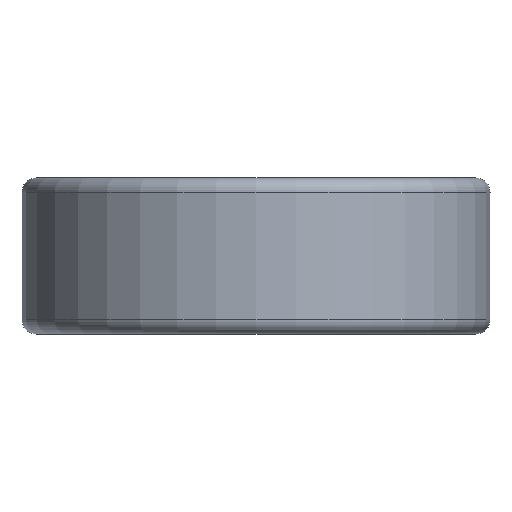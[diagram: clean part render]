
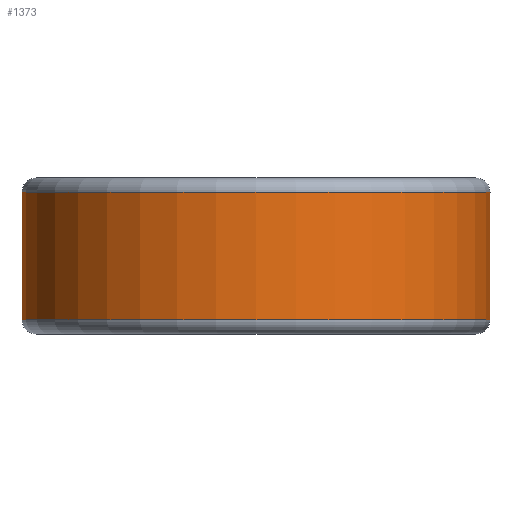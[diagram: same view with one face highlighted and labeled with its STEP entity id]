
A CAD part, left-side view. The second image highlights one B-rep face of the part: STEP entity #1373.
In plain terms, the highlighted cylindrical face has radius 22.5 mm (diameter 45 mm), a partial arc.
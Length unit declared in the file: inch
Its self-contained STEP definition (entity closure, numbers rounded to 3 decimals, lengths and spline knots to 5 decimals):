
#133=CARTESIAN_POINT('',(0.88527,-0.0313,
0.05314));
#143=DIRECTION('',(0.,0.,1.));
#144=VECTOR('',#143,0.48426);
#145=CARTESIAN_POINT('',(0.88527,-0.0313,
0.05314));
#146=LINE('',#145,#144);
#155=CARTESIAN_POINT('',(0.88527,-0.0313,
0.53741));
#217=CARTESIAN_POINT('',(0.88527,0.0313,
0.53741));
#227=DIRECTION('',(0.,0.,-1.));
#228=VECTOR('',#227,0.48426);
#229=CARTESIAN_POINT('',(0.88527,0.0313,
0.53741));
#230=LINE('',#229,#228);
#239=CARTESIAN_POINT('',(0.88527,0.0313,
0.05314));
#365=CARTESIAN_POINT('',(0.,0.,0.5374));
#366=DIRECTION('',(0.,0.,1.));
#367=DIRECTION('',(0.999,0.035,0.));
#368=AXIS2_PLACEMENT_3D('',#365,#366,#367);
#370=DIRECTION('',(0.,0.,1.));
#371=VECTOR('',#370,0.02248);
#372=CARTESIAN_POINT('',(0.84765,0.25725,
0.15626));
#373=LINE('',#372,#371);
#374=CARTESIAN_POINT('',(0.689,0.55675,0.08434));
#375=CARTESIAN_POINT('',(0.70313,0.53926,
0.08434));
#376=CARTESIAN_POINT('',(0.73198,0.50087,
0.08717));
#377=CARTESIAN_POINT('',(0.77515,0.4316,
0.10092));
#378=CARTESIAN_POINT('',(0.81504,0.35118,
0.12406));
#379=CARTESIAN_POINT('',(0.83773,0.28993,
0.14494));
#380=CARTESIAN_POINT('',(0.84765,0.25725,
0.15626));
#382=CARTESIAN_POINT('',(0.689,0.55675,0.50621));
#383=CARTESIAN_POINT('',(0.67449,0.5747,
0.50621));
#384=CARTESIAN_POINT('',(0.64589,0.60724,
0.50322));
#385=CARTESIAN_POINT('',(0.60589,0.64691,
0.4906));
#386=CARTESIAN_POINT('',(0.57011,0.67844,
0.47104));
#387=CARTESIAN_POINT('',(0.53991,0.70255,
0.44613));
#388=CARTESIAN_POINT('',(0.51544,0.72059,
0.41709));
#389=CARTESIAN_POINT('',(0.49688,0.73342,
0.3849));
#390=CARTESIAN_POINT('',(0.48435,0.74171,
0.35058));
#391=CARTESIAN_POINT('',(0.47787,0.74588,
0.3145));
#392=CARTESIAN_POINT('',(0.47773,0.74597,
0.27768));
#393=CARTESIAN_POINT('',(0.48393,0.74198,
0.2416));
#394=CARTESIAN_POINT('',(0.49614,0.73392,
0.20726));
#395=CARTESIAN_POINT('',(0.51442,0.72131,
0.17493));
#396=CARTESIAN_POINT('',(0.53875,0.70344,
0.14552));
#397=CARTESIAN_POINT('',(0.56904,0.67934,
0.12025));
#398=CARTESIAN_POINT('',(0.60506,0.64769,
0.10025));
#399=CARTESIAN_POINT('',(0.64545,0.60772,
0.08741));
#400=CARTESIAN_POINT('',(0.67434,0.57489,
0.08434));
#401=CARTESIAN_POINT('',(0.689,0.55675,0.08434));
#403=CARTESIAN_POINT('',(0.84765,0.25725,
0.43429));
#404=CARTESIAN_POINT('',(0.83773,0.28993,
0.44561));
#405=CARTESIAN_POINT('',(0.81505,0.35115,
0.46652));
#406=CARTESIAN_POINT('',(0.77516,0.43159,
0.48959));
#407=CARTESIAN_POINT('',(0.73199,0.50085,
0.5034));
#408=CARTESIAN_POINT('',(0.70314,0.53926,
0.50621));
#409=CARTESIAN_POINT('',(0.689,0.55675,0.50621));
#411=DIRECTION('',(0.,0.,1.));
#412=VECTOR('',#411,0.02248);
#413=CARTESIAN_POINT('',(0.84765,0.25725,
0.41181));
#414=LINE('',#413,#412);
#415=DIRECTION('',(0.,0.,-1.));
#416=VECTOR('',#415,0.23307);
#417=CARTESIAN_POINT('',(0.84765,0.25725,
0.41181));
#418=LINE('',#417,#416);
#419=CARTESIAN_POINT('',(0.,0.,0.05315));
#420=DIRECTION('',(0.,0.,-1.));
#421=DIRECTION('',(0.999,-0.035,0.));
#422=AXIS2_PLACEMENT_3D('',#419,#420,#421);
#735=CARTESIAN_POINT('',(0.689,-0.55675,0.19371));
#736=CARTESIAN_POINT('',(0.68058,-0.56716,
0.19371));
#737=CARTESIAN_POINT('',(0.66413,-0.58655,0.1958));
#738=CARTESIAN_POINT('',(0.64156,-0.61106,
0.20443));
#739=CARTESIAN_POINT('',(0.62219,-0.63068,
0.21764));
#740=CARTESIAN_POINT('',(0.60694,-0.6453,
0.23412));
#741=CARTESIAN_POINT('',(0.59621,-0.65519,
0.25234));
#742=CARTESIAN_POINT('',(0.58969,-0.66103,
0.27118));
#743=CARTESIAN_POINT('',(0.58693,-0.66348,
0.29052));
#744=CARTESIAN_POINT('',(0.58788,-0.66264,
0.30983));
#745=CARTESIAN_POINT('',(0.59239,-0.65862,
0.32852));
#746=CARTESIAN_POINT('',(0.60044,-0.65132,
0.34627));
#747=CARTESIAN_POINT('',(0.61199,-0.64052,
0.3625));
#748=CARTESIAN_POINT('',(0.62689,-0.62601,
0.37652));
#749=CARTESIAN_POINT('',(0.64497,-0.60743,
0.38764));
#750=CARTESIAN_POINT('',(0.66574,-0.58467,
0.39499));
#751=CARTESIAN_POINT('',(0.6811,-0.56652,
0.39684));
#752=CARTESIAN_POINT('',(0.689,-0.55675,0.39684));
#754=CARTESIAN_POINT('',(0.689,-0.55675,0.39684));
#755=CARTESIAN_POINT('',(0.69762,-0.54608,
0.39684));
#756=CARTESIAN_POINT('',(0.71354,-0.52536,
0.39468));
#757=CARTESIAN_POINT('',(0.73345,-0.49708,
0.38733));
#758=CARTESIAN_POINT('',(0.74988,-0.47183,
0.37726));
#759=CARTESIAN_POINT('',(0.76316,-0.44996,
0.36538));
#760=CARTESIAN_POINT('',(0.77372,-0.43146,
0.35212));
#761=CARTESIAN_POINT('',(0.78187,-0.41643,
0.33747));
#762=CARTESIAN_POINT('',(0.78765,-0.40535,
0.32156));
#763=CARTESIAN_POINT('',(0.79093,-0.39891,
0.3027));
#764=CARTESIAN_POINT('',(0.79043,-0.39994,
0.28313));
#765=CARTESIAN_POINT('',(0.78657,-0.40746,
0.26543));
#766=CARTESIAN_POINT('',(0.78056,-0.4189,
0.25038));
#767=CARTESIAN_POINT('',(0.77236,-0.43388,
0.23651));
#768=CARTESIAN_POINT('',(0.76185,-0.45217,
0.22384));
#769=CARTESIAN_POINT('',(0.74868,-0.47372,
0.21244));
#770=CARTESIAN_POINT('',(0.73247,-0.49851,
0.20279));
#771=CARTESIAN_POINT('',(0.71293,-0.52617,
0.19576));
#772=CARTESIAN_POINT('',(0.69739,-0.54636,
0.19371));
#773=CARTESIAN_POINT('',(0.689,-0.55675,0.19371));
#817=VERTEX_POINT('',#133);
#818=VERTEX_POINT('',#155);
#833=VERTEX_POINT('',#217);
#835=VERTEX_POINT('',#239);
#856=CARTESIAN_POINT('',(0.84765,0.25725,
0.15626));
#857=CARTESIAN_POINT('',(0.84765,0.25725,
0.17874));
#858=VERTEX_POINT('',#856);
#859=VERTEX_POINT('',#857);
#860=VERTEX_POINT('',#374);
#861=VERTEX_POINT('',#382);
#862=VERTEX_POINT('',#403);
#863=CARTESIAN_POINT('',(0.84765,0.25725,
0.41181));
#864=VERTEX_POINT('',#863);
#865=VERTEX_POINT('',#735);
#866=VERTEX_POINT('',#752);
#1341=CARTESIAN_POINT('',(0.,0.,0.59055));
#1342=DIRECTION('',(0.,0.,-1.));
#1343=DIRECTION('',(-1.,0.,0.));
#1344=AXIS2_PLACEMENT_3D('',#1341,#1342,#1343);
#1345=CYLINDRICAL_SURFACE('',#1344,0.88583);
#1347=ORIENTED_EDGE('',*,*,#1346,.T.);
#1348=ORIENTED_EDGE('',*,*,#1133,.F.);
#1349=ORIENTED_EDGE('',*,*,#1325,.T.);
#1350=ORIENTED_EDGE('',*,*,#1052,.F.);
#1351=EDGE_LOOP('',(#1347,#1348,#1349,#1350));
#1352=FACE_OUTER_BOUND('',#1351,.F.);
#1354=ORIENTED_EDGE('',*,*,#1353,.F.);
#1356=ORIENTED_EDGE('',*,*,#1355,.F.);
#1358=ORIENTED_EDGE('',*,*,#1357,.F.);
#1360=ORIENTED_EDGE('',*,*,#1359,.F.);
#1362=ORIENTED_EDGE('',*,*,#1361,.F.);
#1364=ORIENTED_EDGE('',*,*,#1363,.T.);
#1365=EDGE_LOOP('',(#1354,#1356,#1358,#1360,#1362,#1364));
#1366=FACE_BOUND('',#1365,.F.);
#1368=ORIENTED_EDGE('',*,*,#1367,.F.);
#1370=ORIENTED_EDGE('',*,*,#1369,.F.);
#1371=EDGE_LOOP('',(#1368,#1370));
#1372=FACE_BOUND('',#1371,.F.);
#369=CIRCLE('',#368,0.88583);
#381=B_SPLINE_CURVE_WITH_KNOTS('',3,(#374,#375,#376,#377,#378,#379,#380),
.UNSPECIFIED.,.F.,.F.,(4,1,1,1,4),(0.,0.25,0.5,0.75,1.),
.UNSPECIFIED.);
#402=B_SPLINE_CURVE_WITH_KNOTS('',3,(#382,#383,#384,#385,#386,#387,#388,#389,
#390,#391,#392,#393,#394,#395,#396,#397,#398,#399,#400,#401),.UNSPECIFIED.,.F.,
.F.,(4,1,1,1,1,1,1,1,1,1,1,1,1,1,1,1,1,4),(0.,0.05882,
0.11765,0.17647,0.23529,0.29412,
0.35294,0.41176,0.47059,0.52941,
0.58824,0.64706,0.70588,0.76471,
0.82353,0.88235,0.94118,1.),.UNSPECIFIED.);
#410=B_SPLINE_CURVE_WITH_KNOTS('',3,(#403,#404,#405,#406,#407,#408,#409),
.UNSPECIFIED.,.F.,.F.,(4,1,1,1,4),(0.,0.25,0.5,0.75,1.),
.UNSPECIFIED.);
#423=CIRCLE('',#422,0.88583);
#753=B_SPLINE_CURVE_WITH_KNOTS('',3,(#735,#736,#737,#738,#739,#740,#741,#742,
#743,#744,#745,#746,#747,#748,#749,#750,#751,#752),.UNSPECIFIED.,.F.,.F.,(4,1,1,
1,1,1,1,1,1,1,1,1,1,1,1,4),(0.,0.06667,0.13333,0.2,
0.26667,0.33333,0.4,0.46667,0.53333,
0.6,0.66667,0.73333,0.8,0.86667,
0.93333,1.),.UNSPECIFIED.);
#774=B_SPLINE_CURVE_WITH_KNOTS('',3,(#754,#755,#756,#757,#758,#759,#760,#761,
#762,#763,#764,#765,#766,#767,#768,#769,#770,#771,#772,#773),.UNSPECIFIED.,.F.,
.F.,(4,1,1,1,1,1,1,1,1,1,1,1,1,1,1,1,1,4),(0.,0.05882,
0.11765,0.17647,0.23529,0.29412,
0.35294,0.41176,0.47059,0.52941,
0.58824,0.64706,0.70588,0.76471,
0.82353,0.88235,0.94118,1.),.UNSPECIFIED.);
#1052=EDGE_CURVE('',#817,#818,#146,.T.);
#1133=EDGE_CURVE('',#833,#835,#230,.T.);
#1325=EDGE_CURVE('',#833,#818,#369,.T.);
#1346=EDGE_CURVE('',#817,#835,#423,.T.);
#1353=EDGE_CURVE('',#858,#859,#373,.T.);
#1355=EDGE_CURVE('',#860,#858,#381,.T.);
#1357=EDGE_CURVE('',#861,#860,#402,.T.);
#1359=EDGE_CURVE('',#862,#861,#410,.T.);
#1361=EDGE_CURVE('',#864,#862,#414,.T.);
#1363=EDGE_CURVE('',#864,#859,#418,.T.);
#1367=EDGE_CURVE('',#865,#866,#753,.T.);
#1369=EDGE_CURVE('',#866,#865,#774,.T.);
#1373=ADVANCED_FACE('',(#1352,#1366,#1372),#1345,.T.);
